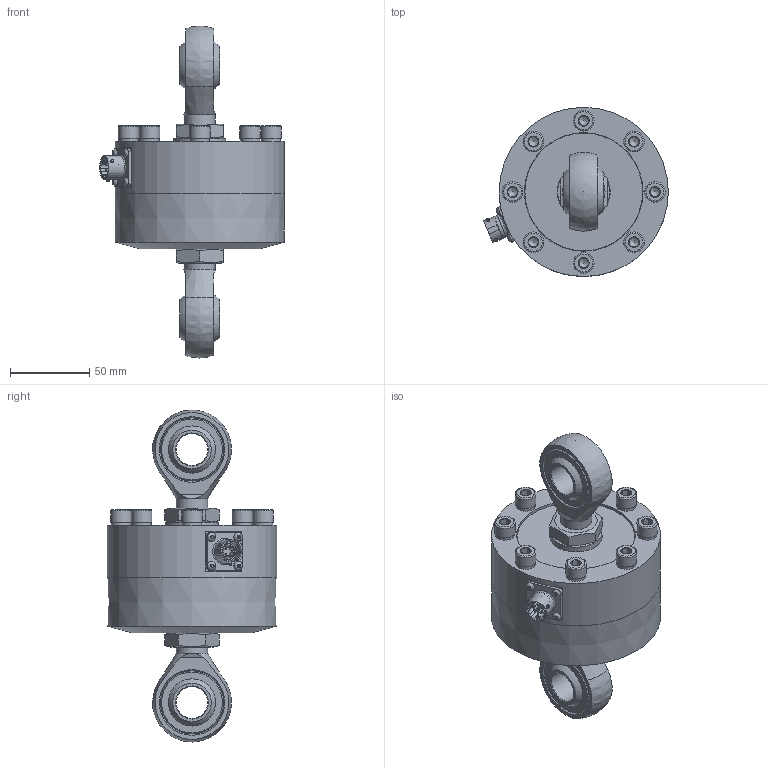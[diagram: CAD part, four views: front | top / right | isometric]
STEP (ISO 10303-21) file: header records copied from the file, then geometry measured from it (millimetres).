
FILE_DESCRIPTION(/* description */ (''),/* implementation_level */ '2;1');
FILE_NAME(/* name */ 'I:/New Datasheets/STEP Models/Pending models/DSCC 5kN to 50kN with mounting base and rod ends.step',/* time_stamp */ '2019-09-06T13:41:53+01:00',/* author */ (''),/* organization */ (''),/* preprocessor_version */ 'ST-DEVELOPER v18',/* originating_system */ 'Autodesk Translation Framework v8.6.0.1094',/* authorisation */ '');
FILE_SCHEMA (('AUTOMOTIVE_DESIGN { 1 0 10303 214 3 1 1 }'));
Products named in the file (2): DSCC Size 1 with base; DSCC 5kN to 50kN with mounting base and rod ends
Assembly tree (1 placements, depth 2):
  DSCC Size 1 with base
    DSCC 5kN to 50kN with mounting base and rod ends
Bounding box: 116.79 x 107 x 210 mm (x, y, z)
Volume: 692628.6 mm3; surface area: 113878.2 mm2
Topology: 1 solids, 28 shells, 990 faces, 2649 edges, 1769 vertices
Faces by surface type: plane 451, cylinder 236, cone 144, bspline 83, torus 46, sphere 30
Full cylindrical faces by diameter (mm): 1 x3, 1.009 x6, 1.165 x6, 1.2 x6, 1.4 x6, 1.52 x3, 1.6 x3, 2 x12, 2.03 x3, 2.2 x12, 2.529 x3, 3 x5, 3.2 x4, 6.779 x8, 8 x8, 8.5 x8, 10.25 x2, 10.9 x1, 11.05 x1, 11.35 x1, 12.55 x1, 13 x8, 13.85 x1, 13.9 x1, 14 x1, 14.95 x1, 15 x1, 19.791 x31, 20 x2, 20.293 x26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
Entity records: 53872 total; most frequent: CARTESIAN_POINT 29453, ORIENTED_EDGE 5244, DIRECTION 4883, EDGE_CURVE 2622, AXIS2_PLACEMENT_3D 1866, VERTEX_POINT 1768, LINE 1151, VECTOR 1151
